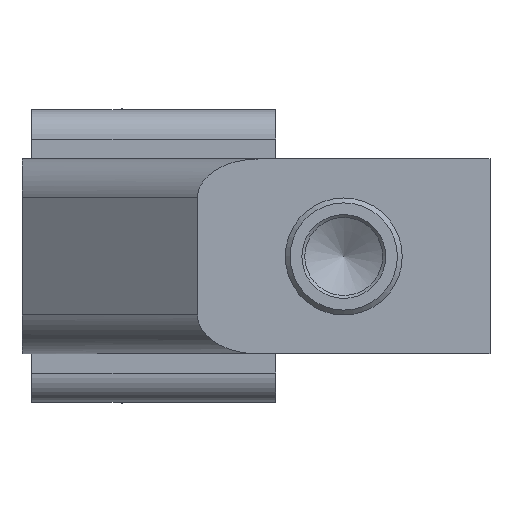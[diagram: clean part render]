
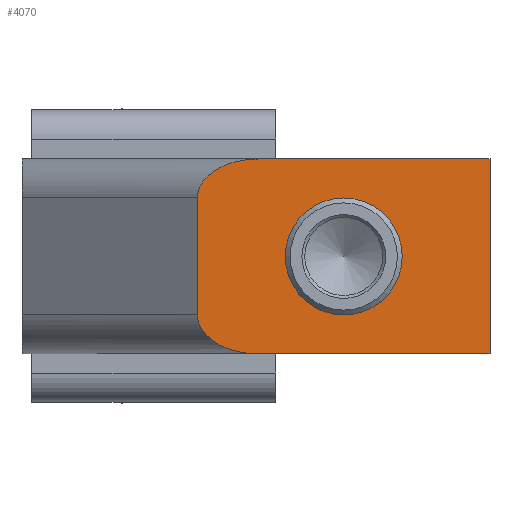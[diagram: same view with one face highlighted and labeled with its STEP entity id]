
A CAD part, left-side view. The second image highlights one B-rep face of the part: STEP entity #4070.
In plain terms, the highlighted planar face has unit normal (-1, 0, 0).
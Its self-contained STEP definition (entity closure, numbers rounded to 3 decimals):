
#227=ELLIPSE('',#4494,6.223,4.);
#228=ELLIPSE('',#4496,6.223,4.);
#319=FACE_BOUND('',#796,.T.);
#376=CIRCLE('',#4497,6.);
#563=FACE_OUTER_BOUND('',#795,.T.);
#795=EDGE_LOOP('',(#2815,#2816,#2817,#2818,#2819,#2820));
#796=EDGE_LOOP('',(#2821));
#1077=LINE('',#6082,#1400);
#1096=LINE('',#6140,#1419);
#1097=LINE('',#6144,#1420);
#1098=LINE('',#6145,#1421);
#1400=VECTOR('',#4927,10.);
#1419=VECTOR('',#4986,10.);
#1420=VECTOR('',#4989,10.);
#1421=VECTOR('',#4990,10.);
#1721=VERTEX_POINT('',#6079);
#1722=VERTEX_POINT('',#6081);
#1740=VERTEX_POINT('',#6135);
#1741=VERTEX_POINT('',#6139);
#1742=VERTEX_POINT('',#6141);
#1743=VERTEX_POINT('',#6143);
#1744=VERTEX_POINT('',#6146);
#2136=EDGE_CURVE('',#1722,#1721,#1077,.T.);
#2165=EDGE_CURVE('',#1740,#1721,#227,.T.);
#2166=EDGE_CURVE('',#1741,#1740,#1096,.T.);
#2167=EDGE_CURVE('',#1742,#1741,#228,.T.);
#2168=EDGE_CURVE('',#1742,#1743,#1097,.T.);
#2169=EDGE_CURVE('',#1743,#1722,#1098,.T.);
#2170=EDGE_CURVE('',#1744,#1744,#376,.T.);
#2815=ORIENTED_EDGE('',*,*,#2165,.F.);
#2816=ORIENTED_EDGE('',*,*,#2166,.F.);
#2817=ORIENTED_EDGE('',*,*,#2167,.F.);
#2818=ORIENTED_EDGE('',*,*,#2168,.T.);
#2819=ORIENTED_EDGE('',*,*,#2169,.T.);
#2820=ORIENTED_EDGE('',*,*,#2136,.T.);
#2821=ORIENTED_EDGE('',*,*,#2170,.T.);
#3959=PLANE('',#4495);
#4070=ADVANCED_FACE('',(#563,#319),#3959,.T.);
#4494=AXIS2_PLACEMENT_3D('',#6137,#4982,#4983);
#4495=AXIS2_PLACEMENT_3D('',#6138,#4984,#4985);
#4496=AXIS2_PLACEMENT_3D('',#6142,#4987,#4988);
#4497=AXIS2_PLACEMENT_3D('',#6147,#4991,#4992);
#4927=DIRECTION('',(0.,1.,0.));
#4982=DIRECTION('center_axis',(1.,0.,0.));
#4983=DIRECTION('ref_axis',(0.,1.,0.));
#4984=DIRECTION('center_axis',(-1.,0.,0.));
#4985=DIRECTION('ref_axis',(0.,0.,1.));
#4986=DIRECTION('',(0.,0.,1.));
#4987=DIRECTION('center_axis',(1.,0.,0.));
#4988=DIRECTION('ref_axis',(0.,1.,0.));
#4989=DIRECTION('',(0.,-1.,0.));
#4990=DIRECTION('',(0.,0.,1.));
#4991=DIRECTION('center_axis',(1.,0.,0.));
#4992=DIRECTION('ref_axis',(0.,0.,1.));
#6079=CARTESIAN_POINT('',(-34.589,-1.287,20.));
#6081=CARTESIAN_POINT('',(-34.589,-25.065,20.));
#6082=CARTESIAN_POINT('',(-34.589,4.935,20.));
#6135=CARTESIAN_POINT('',(-34.589,4.935,16.));
#6137=CARTESIAN_POINT('Origin',(-34.589,-1.287,16.));
#6138=CARTESIAN_POINT('Origin',(-34.589,-25.065,0.));
#6139=CARTESIAN_POINT('',(-34.589,4.935,4.));
#6140=CARTESIAN_POINT('',(-34.589,4.935,0.));
#6141=CARTESIAN_POINT('',(-34.589,-1.287,0.));
#6142=CARTESIAN_POINT('Origin',(-34.589,-1.287,4.));
#6143=CARTESIAN_POINT('',(-34.589,-25.065,0.));
#6144=CARTESIAN_POINT('',(-34.589,4.935,0.));
#6145=CARTESIAN_POINT('',(-34.589,-25.065,0.));
#6146=CARTESIAN_POINT('',(-34.589,-10.065,4.));
#6147=CARTESIAN_POINT('Origin',(-34.589,-10.065,10.));
